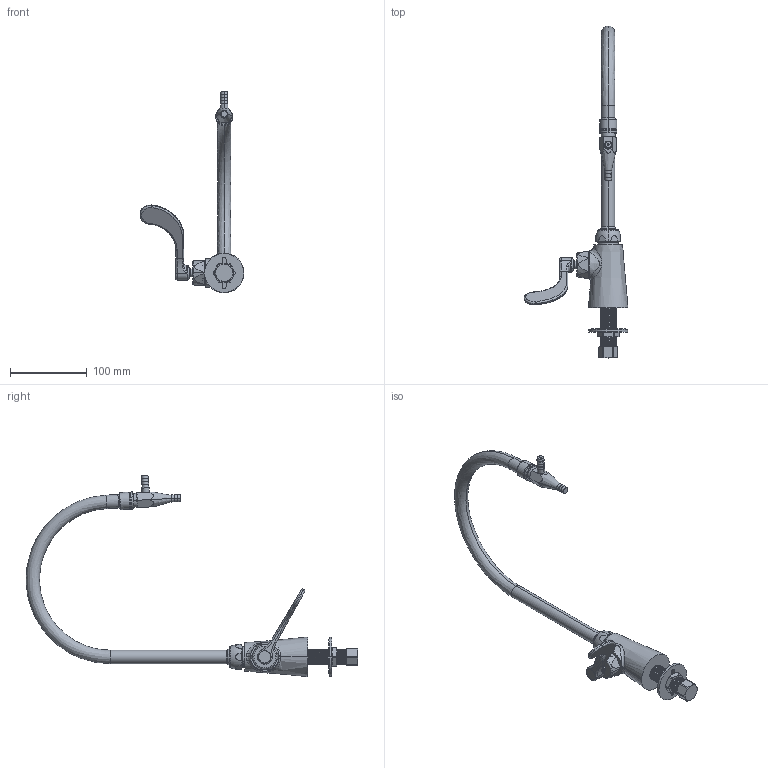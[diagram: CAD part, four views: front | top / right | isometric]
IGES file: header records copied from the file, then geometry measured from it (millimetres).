
Start section:  PTC IGES file: LWS2-C36-B.igs
Global section: file name: LWS2-C36-B.igs; native system: Creo Parametric by PTC Inc.; preprocessor: 2014500; author: usch_engrender; organization: Unknown; date: 20151203.170234; units: inch
Bounding box: 135.31 x 431.83 x 262.15 mm (x, y, z)
Volume: 344674.5 mm3; surface area: 70146.3 mm2
Topology: 1 solids, 4 shells, 358 faces, 880 edges, 549 vertices
Faces by surface type: revolution 239, bspline 119
